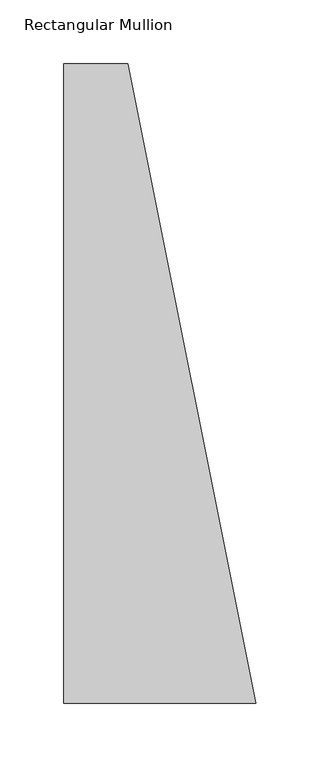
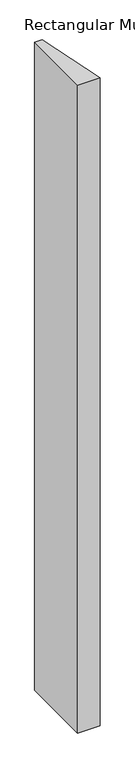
"""IFC4 building model written with IfcOpenShell, lengths in millimetres: member geometry, Rectangular Mullion : 500(350+150)x150x50mm."""

from ifc_helpers import new_model, si_unit, frame, origin, place, context, project, spatial, polyline, outline, extrude, source, transform, mapped, element, save


def rectangular_mullion_3f831f08(model_context):
    return source(origin(), model_context, "Body", "SweptSolid", [
        extrude(outline(polyline([(-150.0, 150.0), (-100.0, 150.0), (0.0, -350.0), (-150.0, -350.0), (-150.0, 150.0)])), frame((0.0, 0.0, -4600.0), z_axis=(0.0, 0.0, 1.0), x_axis=(1.0, 0.0, 0.0)), (0.0, 0.0, 1.0), 4600.0),
    ])


if __name__ == "__main__":
    model = new_model("IFC4")
    model_context = context("Model", 3, world=origin())
    ifc_project = project(units=[si_unit("LENGTHUNIT", "METRE", prefix="MILLI")], contexts=[model_context])
    site = spatial("IfcSite", under=ifc_project)
    building = spatial("IfcBuilding", under=site)
    placement = place(None, origin())
    rectangular_mullion_shape = rectangular_mullion_3f831f08(model_context)
    element("IfcMember", 1, ObjectType="Rectangular Mullion : 500(350+150)x150x50mm", at=placement, inside=building, context=model_context, shape_type="MappedRepresentation", body=[
        mapped(rectangular_mullion_shape, transform((0.0, 0.0, 0.0), x_axis=(1.0, 0.0, 0.0), y_axis=(0.0, 1.0, 0.0), z_axis=(0.0, 0.0, 1.0))),
    ])
    save(model, "model.ifc")
